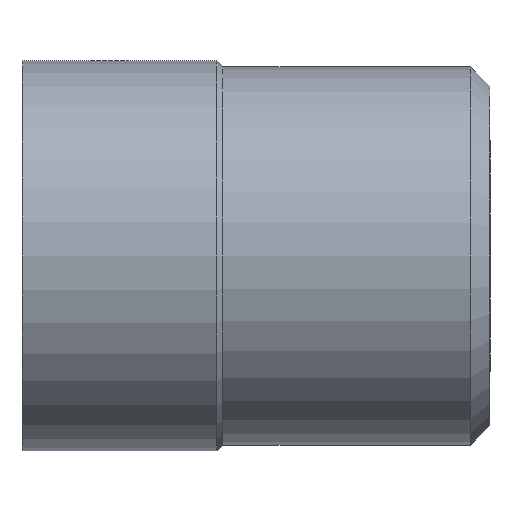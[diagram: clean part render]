
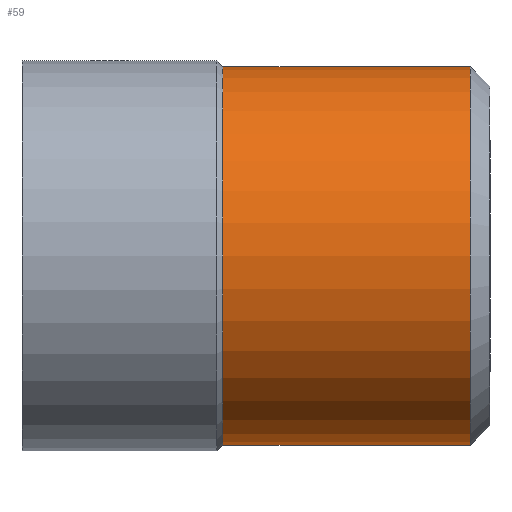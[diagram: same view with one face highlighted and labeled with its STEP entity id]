
A CAD part, left-side view. The second image highlights one B-rep face of the part: STEP entity #59.
In plain terms, the highlighted cylindrical face has radius 4.85 mm (diameter 9.7 mm), a partial arc.
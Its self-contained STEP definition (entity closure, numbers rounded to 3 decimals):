
#59 = ADVANCED_FACE ( 'NONE', ( #2509 ), #1833, .T. ) ;
#82 = EDGE_CURVE ( 'NONE', #2695, #112, #1181, .T. ) ;
#88 = EDGE_CURVE ( 'NONE', #112, #917, #501, .T. ) ;
#112 = VERTEX_POINT ( 'NONE', #1265 ) ;
#148 = DIRECTION ( 'NONE',  ( 0., 1., 0. ) ) ;
#255 = DIRECTION ( 'NONE',  ( 0., 0., 1. ) ) ;
#448 = DIRECTION ( 'NONE',  ( 0., 1., 0. ) ) ;
#450 = CARTESIAN_POINT ( 'NONE',  ( 0., -11.5, 0. ) ) ;
#501 = CIRCLE ( 'NONE', #560, 4.85 ) ;
#560 = AXIS2_PLACEMENT_3D ( 'NONE', #2295, #2498, #2490 ) ;
#578 = DIRECTION ( 'NONE',  ( 0., 1., 0. ) ) ;
#583 = AXIS2_PLACEMENT_3D ( 'NONE', #938, #1016, #255 ) ;
#734 = LINE ( 'NONE', #775, #1245 ) ;
#775 = CARTESIAN_POINT ( 'NONE',  ( 0., 3.29, 4.85 ) ) ;
#871 = ORIENTED_EDGE ( 'NONE', *, *, #88, .F. ) ;
#917 = VERTEX_POINT ( 'NONE', #1195 ) ;
#938 = CARTESIAN_POINT ( 'NONE',  ( 0., 3.29, 0. ) ) ;
#970 = ORIENTED_EDGE ( 'NONE', *, *, #1190, .T. ) ;
#1005 = DIRECTION ( 'NONE',  ( 0., 0., 1. ) ) ;
#1016 = DIRECTION ( 'NONE',  ( 0., 1., 0. ) ) ;
#1169 = EDGE_CURVE ( 'NONE', #2695, #2073, #1317, .T. ) ;
#1181 = LINE ( 'NONE', #1343, #1754 ) ;
#1190 = EDGE_CURVE ( 'NONE', #2073, #917, #734, .T. ) ;
#1195 = CARTESIAN_POINT ( 'NONE',  ( 0., -5.15, 4.85 ) ) ;
#1245 = VECTOR ( 'NONE', #578, 1000. ) ;
#1265 = CARTESIAN_POINT ( 'NONE',  ( 0., -5.15, -4.85 ) ) ;
#1317 = CIRCLE ( 'NONE', #2565, 4.85 ) ;
#1343 = CARTESIAN_POINT ( 'NONE',  ( 0., 3.29, -4.85 ) ) ;
#1754 = VECTOR ( 'NONE', #148, 1000. ) ;
#1833 = CYLINDRICAL_SURFACE ( 'NONE', #583, 4.85 ) ;
#2043 = ORIENTED_EDGE ( 'NONE', *, *, #82, .F. ) ;
#2073 = VERTEX_POINT ( 'NONE', #2614 ) ;
#2173 = CARTESIAN_POINT ( 'NONE',  ( 0., -11.5, -4.85 ) ) ;
#2261 = EDGE_LOOP ( 'NONE', ( #2043, #2764, #970, #871 ) ) ;
#2295 = CARTESIAN_POINT ( 'NONE',  ( 0., -5.15, 0. ) ) ;
#2490 = DIRECTION ( 'NONE',  ( 0., 0., 1. ) ) ;
#2498 = DIRECTION ( 'NONE',  ( 0., 1., 0. ) ) ;
#2509 = FACE_OUTER_BOUND ( 'NONE', #2261, .T. ) ;
#2565 = AXIS2_PLACEMENT_3D ( 'NONE', #450, #448, #1005 ) ;
#2614 = CARTESIAN_POINT ( 'NONE',  ( 0., -11.5, 4.85 ) ) ;
#2695 = VERTEX_POINT ( 'NONE', #2173 ) ;
#2764 = ORIENTED_EDGE ( 'NONE', *, *, #1169, .T. ) ;
